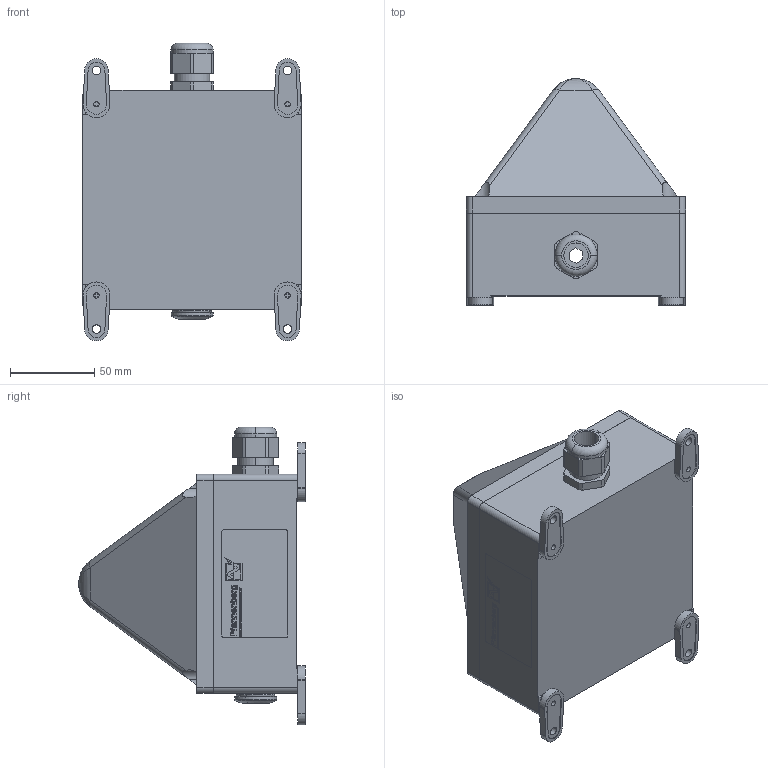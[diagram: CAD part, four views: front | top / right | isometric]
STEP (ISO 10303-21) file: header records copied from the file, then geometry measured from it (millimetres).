
FILE_DESCRIPTION (( 'STEP AP214' ), '1' );
FILE_NAME ('Quadro-R.STEP', '2011-06-01T11:14:20', ( ' ' ), ( ' ' ), 'SwSTEP 2.0', 'SolidWorks 2011', '' );
FILE_SCHEMA (( 'AUTOMOTIVE_DESIGN' ));
Length unit declared in the file: millimetre
Products named in the file (1): Quadro-R
Bounding box: 130.14 x 134.5 x 176.75 mm (x, y, z)
Surface area: 91068.1 mm2 (no closed solid volume)
Topology: 0 solids, 37 shells, 379 faces, 1998 edges, 1653 vertices
Faces by surface type: plane 227, cylinder 108, bspline 26, cone 10, torus 8
Entity records: 29539 total; most frequent: CARTESIAN_POINT 10735, ORIENTED_EDGE 2729, DIRECTION 2585, EDGE_CURVE 1994, VERTEX_POINT 1653, VECTOR 1265, LINE 1265, AXIS2_PLACEMENT_3D 660
